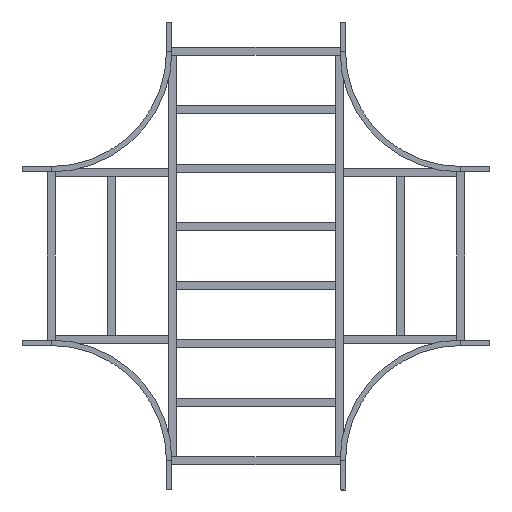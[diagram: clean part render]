
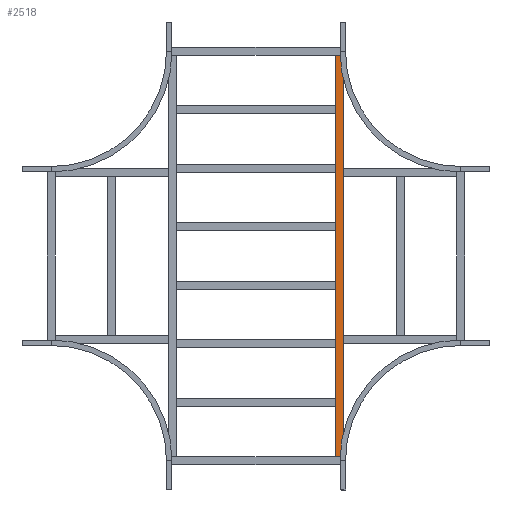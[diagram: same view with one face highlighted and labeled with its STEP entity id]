
A CAD part, front view. The second image highlights one B-rep face of the part: STEP entity #2518.
In plain terms, the highlighted planar face has unit normal (0, -1, 0).
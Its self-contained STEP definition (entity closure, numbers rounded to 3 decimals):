
#301 = VERTEX_POINT ( 'NONE', #2478 ) ;
#431 = ORIENTED_EDGE ( 'NONE', *, *, #1512, .F. ) ;
#441 = EDGE_LOOP ( 'NONE', ( #2091, #431, #1776, #2431 ) ) ;
#572 = EDGE_CURVE ( 'NONE', #1082, #301, #730, .T. ) ;
#621 = DIRECTION ( 'NONE',  ( -1., 0., 0. ) ) ;
#730 = LINE ( 'NONE', #2306, #2493 ) ;
#807 = DIRECTION ( 'NONE',  ( 0., 0., -1. ) ) ;
#850 = VECTOR ( 'NONE', #621, 1000. ) ;
#931 = CARTESIAN_POINT ( 'NONE',  ( 1029.75, 0., 20.25 ) ) ;
#1082 = VERTEX_POINT ( 'NONE', #2088 ) ;
#1164 = DIRECTION ( 'NONE',  ( 0., 0., 1. ) ) ;
#1292 = VERTEX_POINT ( 'NONE', #1451 ) ;
#1387 = EDGE_CURVE ( 'NONE', #1082, #1292, #1586, .T. ) ;
#1404 = CARTESIAN_POINT ( 'NONE',  ( 1029.75, 0., -20.25 ) ) ;
#1436 = PLANE ( 'NONE',  #3010 ) ;
#1451 = CARTESIAN_POINT ( 'NONE',  ( 1029.75, 0., -20.25 ) ) ;
#1500 = VECTOR ( 'NONE', #807, 1000. ) ;
#1512 = EDGE_CURVE ( 'NONE', #1292, #3138, #2651, .T. ) ;
#1586 = LINE ( 'NONE', #1826, #2993 ) ;
#1776 = ORIENTED_EDGE ( 'NONE', *, *, #1387, .F. ) ;
#1826 = CARTESIAN_POINT ( 'NONE',  ( 1029.75, 0., 20.25 ) ) ;
#2070 = CARTESIAN_POINT ( 'NONE',  ( -1029.75, 0., 20.25 ) ) ;
#2088 = CARTESIAN_POINT ( 'NONE',  ( 1029.75, 0., 20.25 ) ) ;
#2091 = ORIENTED_EDGE ( 'NONE', *, *, #2809, .T. ) ;
#2095 = DIRECTION ( 'NONE',  ( -1., 0., 0. ) ) ;
#2206 = FACE_OUTER_BOUND ( 'NONE', #441, .T. ) ;
#2306 = CARTESIAN_POINT ( 'NONE',  ( 1029.75, 0., 20.25 ) ) ;
#2431 = ORIENTED_EDGE ( 'NONE', *, *, #572, .T. ) ;
#2436 = DIRECTION ( 'NONE',  ( 0., 1., 0. ) ) ;
#2478 = CARTESIAN_POINT ( 'NONE',  ( -1029.75, 0., 20.25 ) ) ;
#2493 = VECTOR ( 'NONE', #2095, 1000. ) ;
#2518 = ADVANCED_FACE ( 'NONE', ( #2206 ), #1436, .F. ) ;
#2651 = LINE ( 'NONE', #1404, #850 ) ;
#2805 = LINE ( 'NONE', #2070, #1500 ) ;
#2809 = EDGE_CURVE ( 'NONE', #301, #3138, #2805, .T. ) ;
#2814 = DIRECTION ( 'NONE',  ( 0., 0., -1. ) ) ;
#2971 = CARTESIAN_POINT ( 'NONE',  ( -1029.75, 0., -20.25 ) ) ;
#2993 = VECTOR ( 'NONE', #2814, 1000. ) ;
#3010 = AXIS2_PLACEMENT_3D ( 'NONE', #931, #2436, #1164 ) ;
#3138 = VERTEX_POINT ( 'NONE', #2971 ) ;
